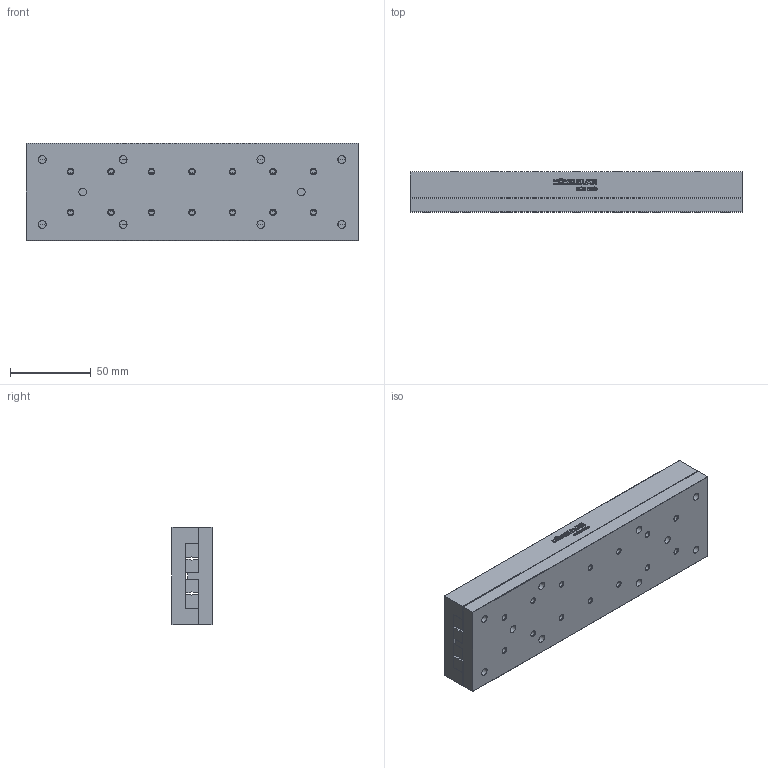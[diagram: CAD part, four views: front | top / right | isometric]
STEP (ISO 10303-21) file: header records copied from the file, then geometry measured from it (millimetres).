
FILE_DESCRIPTION(/* description */ ('STEP AP214'),/* implementation_level */ '2;1');
FILE_NAME(/* name */ 'NKL 3-205(0)',/* time_stamp */ '2025-04-23T07:59:49+02:00',/* author */ ('License CC BY-ND 4.0'),/* organization */ ('CADENAS'),/* preprocessor_version */ 'ST-DEVELOPER v19.3',/* originating_system */ 'PARTsolutions',/* authorisation */ ' ');
FILE_SCHEMA (('AUTOMOTIVE_DESIGN {1 0 10303 214 3 1 1}'));
Length unit declared in the file: millimetre
Products named in the file (3): NKL 3-205(0); NKL 3-205_1; NKL 3-205_2
Assembly tree (2 placements, depth 2):
  NKL 3-205(0)
    NKL 3-205_1
    NKL 3-205_2
Bounding box: 205 x 25 x 60 mm (x, y, z)
Volume: 294538.8 mm3; surface area: 85734.4 mm2
Topology: 2 solids, 2 shells, 699 faces, 1904 edges, 1236 vertices
Faces by surface type: cylinder 340, plane 303, cone 56
Full cylindrical faces by diameter (mm): 3.242 x28, 4.8 x10, 8 x10
Entity records: 21781 total; most frequent: DIRECTION 3940, CARTESIAN_POINT 3710, ORIENTED_EDGE 3572, EDGE_CURVE 1786, AXIS2_PLACEMENT_3D 1452, VERTEX_POINT 1222, LINE 1036, VECTOR 1036
